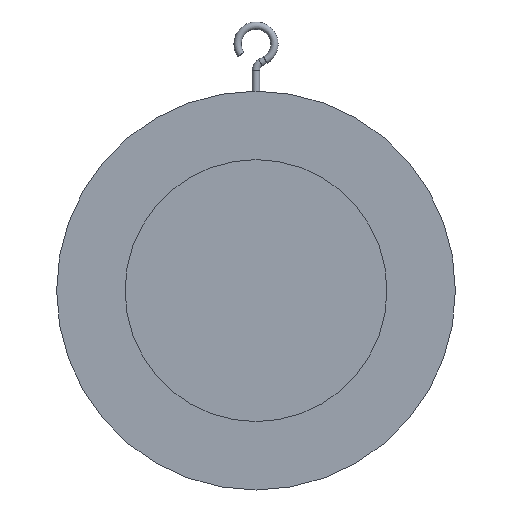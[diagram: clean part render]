
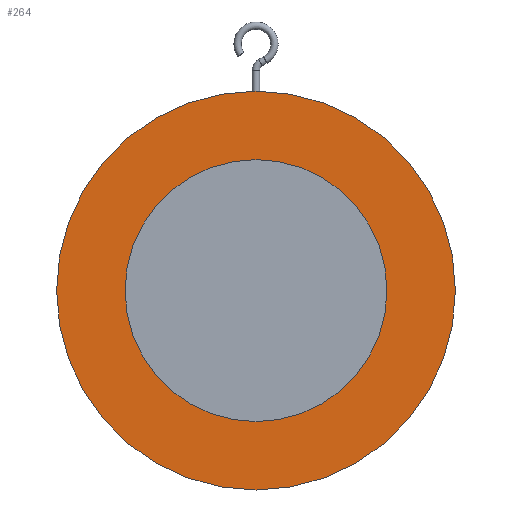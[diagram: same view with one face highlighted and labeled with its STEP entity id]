
A CAD part, front view. The second image highlights one B-rep face of the part: STEP entity #264.
In plain terms, the highlighted planar face has unit normal (0, -1, 0).
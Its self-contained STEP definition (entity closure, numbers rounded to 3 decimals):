
#264=ADVANCED_FACE('',(#509,#511),#513,.T.);
#509=FACE_BOUND('',#510,.T.);
#510=EDGE_LOOP('',(#680));
#511=FACE_BOUND('',#512,.T.);
#512=EDGE_LOOP('',(#681));
#513=PLANE('',#514);
#514=AXIS2_PLACEMENT_3D('',#515,#516,#517);
#515=CARTESIAN_POINT('',(0.,-24.,0.));
#516=DIRECTION('',(0.,-1.,0.));
#517=DIRECTION('',(0.,0.,1.));
#680=ORIENTED_EDGE('',*,*,#747,.F.);
#681=ORIENTED_EDGE('',*,*,#749,.T.);
#747=EDGE_CURVE('',#847,#847,#848,.T.);
#749=EDGE_CURVE('',#851,#851,#852,.T.);
#847=VERTEX_POINT('',#1362);
#848=CIRCLE('',#1363,271.);
#851=VERTEX_POINT('',#1372);
#852=CIRCLE('',#1373,178.);
#1362=CARTESIAN_POINT('',(0.,-24.,271.));
#1363=AXIS2_PLACEMENT_3D('',#1364,#1365,#1366);
#1364=CARTESIAN_POINT('',(0.,-24.,0.));
#1365=DIRECTION('',(0.,1.,0.));
#1366=DIRECTION('',(0.,0.,1.));
#1372=CARTESIAN_POINT('',(0.,-24.,178.));
#1373=AXIS2_PLACEMENT_3D('',#1374,#1375,#1376);
#1374=CARTESIAN_POINT('',(0.,-24.,0.));
#1375=DIRECTION('',(0.,1.,0.));
#1376=DIRECTION('',(0.,0.,1.));
